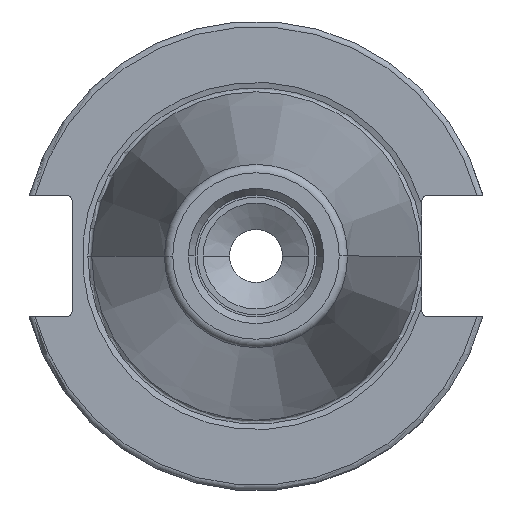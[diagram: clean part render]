
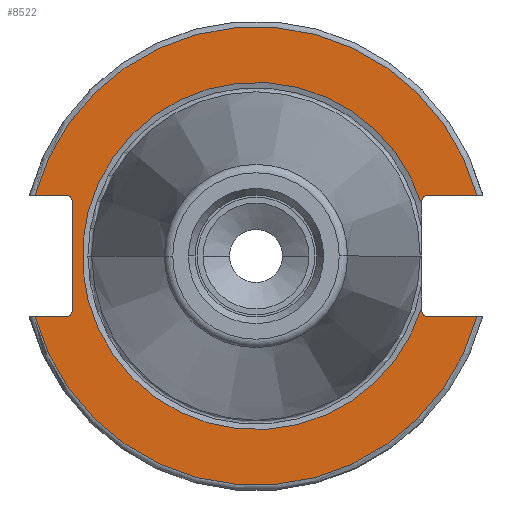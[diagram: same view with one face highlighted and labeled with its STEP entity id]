
A CAD part, left-side view. The second image highlights one B-rep face of the part: STEP entity #8522.
In plain terms, the highlighted planar face has unit normal (-1, 0, 0).
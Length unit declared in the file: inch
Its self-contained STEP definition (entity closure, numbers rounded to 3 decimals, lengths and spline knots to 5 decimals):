
#181 = AXIS2_PLACEMENT_3D ( 'NONE', #15731, #19456, #21529 ) ;
#185 = EDGE_CURVE ( 'NONE', #5101, #23573, #16319, .T. ) ;
#441 = LINE ( 'NONE', #18704, #3324 ) ;
#468 = EDGE_CURVE ( 'NONE', #16374, #5101, #7149, .T. ) ;
#674 = EDGE_CURVE ( 'NONE', #7755, #16374, #15737, .T. ) ;
#725 = CIRCLE ( 'NONE', #7653, 0.03 ) ;
#800 = VERTEX_POINT ( 'NONE', #6534 ) ;
#802 = ORIENTED_EDGE ( 'NONE', *, *, #185, .T. ) ;
#1181 = CARTESIAN_POINT ( 'NONE',  ( 0.125, -0.8825, -0.2925 ) ) ;
#1420 = VERTEX_POINT ( 'NONE', #22770 ) ;
#1625 = EDGE_CURVE ( 'NONE', #2842, #7755, #5946, .T. ) ;
#1651 = DIRECTION ( 'NONE',  ( 0., -1., 0. ) ) ;
#1897 = CARTESIAN_POINT ( 'NONE',  ( 0.125, 1.0075, 0.3225 ) ) ;
#2238 = CARTESIAN_POINT ( 'NONE',  ( 0.125, -0.8825, -0.27356 ) ) ;
#2268 = AXIS2_PLACEMENT_3D ( 'NONE', #18000, #21893, #21664 ) ;
#2342 = AXIS2_PLACEMENT_3D ( 'NONE', #6298, #6380, #8156 ) ;
#2491 = DIRECTION ( 'NONE',  ( 1., 0., 0. ) ) ;
#2549 = VERTEX_POINT ( 'NONE', #2775 ) ;
#2775 = CARTESIAN_POINT ( 'NONE',  ( 0.125, 1.1766, 0.3225 ) ) ;
#2842 = VERTEX_POINT ( 'NONE', #2238 ) ;
#2851 = VECTOR ( 'NONE', #9481, 39.37008 ) ;
#3068 = ORIENTED_EDGE ( 'NONE', *, *, #20903, .F. ) ;
#3324 = VECTOR ( 'NONE', #22073, 39.37008 ) ;
#3524 = ORIENTED_EDGE ( 'NONE', *, *, #8217, .F. ) ;
#3651 = DIRECTION ( 'NONE',  ( 0., 1., 0. ) ) ;
#3671 = CIRCLE ( 'NONE', #22694, 0.03 ) ;
#3825 = FACE_OUTER_BOUND ( 'NONE', #18284, .T. ) ;
#3896 = VECTOR ( 'NONE', #3651, 39.37008 ) ;
#3966 = EDGE_CURVE ( 'NONE', #1420, #7453, #17360, .T. ) ;
#4130 = EDGE_CURVE ( 'NONE', #1420, #800, #7602, .T. ) ;
#4517 = ORIENTED_EDGE ( 'NONE', *, *, #1625, .T. ) ;
#4539 = PLANE ( 'NONE',  #2342 ) ;
#4749 = DIRECTION ( 'NONE',  ( 0., 1., 0. ) ) ;
#4828 = DIRECTION ( 'NONE',  ( 1., 0., 0. ) ) ;
#5101 = VERTEX_POINT ( 'NONE', #13747 ) ;
#5105 = EDGE_CURVE ( 'NONE', #21548, #2549, #17317, .T. ) ;
#5236 = VECTOR ( 'NONE', #1651, 39.37008 ) ;
#5261 = CARTESIAN_POINT ( 'NONE',  ( 0.125, 0., -0.3225 ) ) ;
#5632 = CARTESIAN_POINT ( 'NONE',  ( 0.125, 1.0075, -0.3225 ) ) ;
#5642 = CARTESIAN_POINT ( 'NONE',  ( 0.125, 0., 0.3225 ) ) ;
#5946 = CIRCLE ( 'NONE', #17327, 0.92393 ) ;
#5983 = CARTESIAN_POINT ( 'NONE',  ( 0.125, 0.9775, -0.2925 ) ) ;
#6298 = CARTESIAN_POINT ( 'NONE',  ( 0.125, 0., 1.22 ) ) ;
#6380 = DIRECTION ( 'NONE',  ( -1., 0., 0. ) ) ;
#6391 = VERTEX_POINT ( 'NONE', #5632 ) ;
#6534 = CARTESIAN_POINT ( 'NONE',  ( 0.125, 1.1766, -0.3225 ) ) ;
#6601 = VECTOR ( 'NONE', #11258, 39.37008 ) ;
#7149 = CIRCLE ( 'NONE', #2268, 0.03 ) ;
#7453 = VERTEX_POINT ( 'NONE', #17624 ) ;
#7602 = CIRCLE ( 'NONE', #19773, 1.22 ) ;
#7653 = AXIS2_PLACEMENT_3D ( 'NONE', #16224, #12407, #10796 ) ;
#7755 = VERTEX_POINT ( 'NONE', #10267 ) ;
#7824 = EDGE_CURVE ( 'NONE', #22530, #2842, #10993, .T. ) ;
#7882 = CARTESIAN_POINT ( 'NONE',  ( 0.125, -0.9125, -0.2925 ) ) ;
#8139 = LINE ( 'NONE', #5261, #5236 ) ;
#8156 = DIRECTION ( 'NONE',  ( 0., -1., 0. ) ) ;
#8217 = EDGE_CURVE ( 'NONE', #800, #6391, #8139, .T. ) ;
#8254 = ORIENTED_EDGE ( 'NONE', *, *, #5105, .F. ) ;
#8378 = ORIENTED_EDGE ( 'NONE', *, *, #16019, .T. ) ;
#8448 = CARTESIAN_POINT ( 'NONE',  ( 0.125, 0., 0.3225 ) ) ;
#8522 = ADVANCED_FACE ( 'NONE', ( #3825 ), #4539, .T. ) ;
#8994 = VECTOR ( 'NONE', #4749, 39.37008 ) ;
#9481 = DIRECTION ( 'NONE',  ( 0., 0., 1. ) ) ;
#9688 = CIRCLE ( 'NONE', #181, 1.22 ) ;
#9715 = CARTESIAN_POINT ( 'NONE',  ( 0.125, -1.1766, 0.3225 ) ) ;
#9884 = ORIENTED_EDGE ( 'NONE', *, *, #4130, .F. ) ;
#10008 = CIRCLE ( 'NONE', #21230, 0.03 ) ;
#10193 = DIRECTION ( 'NONE',  ( 0., 0., 1. ) ) ;
#10267 = CARTESIAN_POINT ( 'NONE',  ( 0.125, -0.8825, 0.27356 ) ) ;
#10287 = CARTESIAN_POINT ( 'NONE',  ( 0.125, 0., 0. ) ) ;
#10382 = CARTESIAN_POINT ( 'NONE',  ( 0.125, -0.8825, 0.2925 ) ) ;
#10583 = ORIENTED_EDGE ( 'NONE', *, *, #21021, .T. ) ;
#10796 = DIRECTION ( 'NONE',  ( 0., -1., 0. ) ) ;
#10993 = LINE ( 'NONE', #12257, #23562 ) ;
#11258 = DIRECTION ( 'NONE',  ( 0., -1., 0. ) ) ;
#11896 = DIRECTION ( 'NONE',  ( 1., 0., 0. ) ) ;
#11957 = ORIENTED_EDGE ( 'NONE', *, *, #7824, .T. ) ;
#12099 = EDGE_CURVE ( 'NONE', #7453, #22530, #10008, .T. ) ;
#12257 = CARTESIAN_POINT ( 'NONE',  ( 0.125, -0.8825, 1.22 ) ) ;
#12364 = DIRECTION ( 'NONE',  ( 0., 1., 0. ) ) ;
#12370 = CARTESIAN_POINT ( 'NONE',  ( 0.125, 0.9775, 0.2925 ) ) ;
#12407 = DIRECTION ( 'NONE',  ( 1., 0., 0. ) ) ;
#12553 = ORIENTED_EDGE ( 'NONE', *, *, #468, .T. ) ;
#13747 = CARTESIAN_POINT ( 'NONE',  ( 0.125, -0.9125, 0.3225 ) ) ;
#13782 = ORIENTED_EDGE ( 'NONE', *, *, #15438, .F. ) ;
#14160 = CARTESIAN_POINT ( 'NONE',  ( 0.125, -0.8825, 1.22 ) ) ;
#15082 = VERTEX_POINT ( 'NONE', #5983 ) ;
#15235 = DIRECTION ( 'NONE',  ( 0., -1., 0. ) ) ;
#15438 = EDGE_CURVE ( 'NONE', #15082, #23492, #441, .T. ) ;
#15504 = ORIENTED_EDGE ( 'NONE', *, *, #12099, .T. ) ;
#15731 = CARTESIAN_POINT ( 'NONE',  ( 0.125, 0., 0. ) ) ;
#15737 = LINE ( 'NONE', #14160, #2851 ) ;
#16019 = EDGE_CURVE ( 'NONE', #21548, #23492, #725, .T. ) ;
#16224 = CARTESIAN_POINT ( 'NONE',  ( 0.125, 1.0075, 0.2925 ) ) ;
#16264 = DIRECTION ( 'NONE',  ( 0., -1., 0. ) ) ;
#16319 = LINE ( 'NONE', #5642, #6601 ) ;
#16374 = VERTEX_POINT ( 'NONE', #10382 ) ;
#17317 = LINE ( 'NONE', #8448, #8994 ) ;
#17327 = AXIS2_PLACEMENT_3D ( 'NONE', #10287, #4828, #12364 ) ;
#17360 = LINE ( 'NONE', #22013, #3896 ) ;
#17502 = ORIENTED_EDGE ( 'NONE', *, *, #674, .T. ) ;
#17624 = CARTESIAN_POINT ( 'NONE',  ( 0.125, -0.9125, -0.3225 ) ) ;
#18000 = CARTESIAN_POINT ( 'NONE',  ( 0.125, -0.9125, 0.2925 ) ) ;
#18284 = EDGE_LOOP ( 'NONE', ( #3524, #9884, #18903, #15504, #11957, #4517, #17502, #12553, #802, #3068, #8254, #8378, #13782, #10583 ) ) ;
#18704 = CARTESIAN_POINT ( 'NONE',  ( 0.125, 0.9775, 1.22 ) ) ;
#18903 = ORIENTED_EDGE ( 'NONE', *, *, #3966, .T. ) ;
#19221 = CARTESIAN_POINT ( 'NONE',  ( 0.125, 0., 0. ) ) ;
#19456 = DIRECTION ( 'NONE',  ( 1., 0., 0. ) ) ;
#19773 = AXIS2_PLACEMENT_3D ( 'NONE', #19221, #11896, #20983 ) ;
#19994 = CARTESIAN_POINT ( 'NONE',  ( 0.125, 1.0075, -0.2925 ) ) ;
#20903 = EDGE_CURVE ( 'NONE', #2549, #23573, #9688, .T. ) ;
#20983 = DIRECTION ( 'NONE',  ( 0., 1., 0. ) ) ;
#21021 = EDGE_CURVE ( 'NONE', #15082, #6391, #3671, .T. ) ;
#21230 = AXIS2_PLACEMENT_3D ( 'NONE', #7882, #2491, #15235 ) ;
#21529 = DIRECTION ( 'NONE',  ( 0., 1., 0. ) ) ;
#21548 = VERTEX_POINT ( 'NONE', #1897 ) ;
#21664 = DIRECTION ( 'NONE',  ( 0., -1., 0. ) ) ;
#21893 = DIRECTION ( 'NONE',  ( 1., 0., 0. ) ) ;
#22013 = CARTESIAN_POINT ( 'NONE',  ( 0.125, 0., -0.3225 ) ) ;
#22073 = DIRECTION ( 'NONE',  ( 0., 0., 1. ) ) ;
#22530 = VERTEX_POINT ( 'NONE', #1181 ) ;
#22694 = AXIS2_PLACEMENT_3D ( 'NONE', #19994, #23689, #16264 ) ;
#22770 = CARTESIAN_POINT ( 'NONE',  ( 0.125, -1.1766, -0.3225 ) ) ;
#23492 = VERTEX_POINT ( 'NONE', #12370 ) ;
#23562 = VECTOR ( 'NONE', #10193, 39.37008 ) ;
#23573 = VERTEX_POINT ( 'NONE', #9715 ) ;
#23689 = DIRECTION ( 'NONE',  ( 1., 0., 0. ) ) ;
